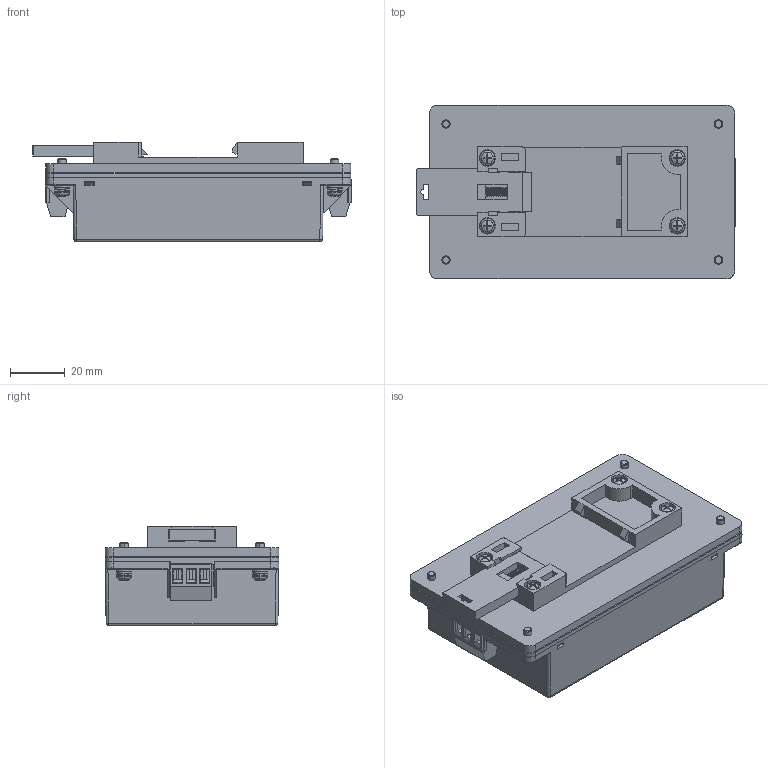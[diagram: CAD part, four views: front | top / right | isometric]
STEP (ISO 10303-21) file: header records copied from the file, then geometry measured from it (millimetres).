
FILE_DESCRIPTION (( 'STEP AP214' ), '1' );
FILE_NAME ('DTE40-D.STEP', '2017-01-10T15:31:44', ( '' ), ( '' ), 'SwSTEP 2.0', 'SolidWorks 2016', '' );
FILE_SCHEMA (( 'AUTOMOTIVE_DESIGN' ));
Length unit declared in the file: inch
Products named in the file (16): M3-8mm; SPRING WASHER; FLAT WASHER; DIN rail; DIN_3; DIN_2; DIN_1; DTE40 DIN Base; DTE40 base; DTE40 Case; Connector Input; Connector Output; DTE40-D; M3-12mm
Assembly tree (23 placements, depth 3):
  DTE40-D
    Connector Output
    Connector Input
    DTE40 Case
    DTE40 base
    DTE40 DIN Base
    DIN rail
      DIN_1
      DIN_2
      DIN_3
    M3-8mm  x4
      FLAT WASHER
      SPRING WASHER
      M3-8mm
    M3-12mm  x4
      M3-12mm
      FLAT WASHER
      SPRING WASHER
Bounding box: 116.81 x 63.8 x 36.6 mm (x, y, z)
Volume: 58691.1 mm3; surface area: 77768.6 mm2
Topology: 32 solids, 32 shells, 1512 faces, 3857 edges, 2485 vertices
Faces by surface type: plane 773, cylinder 395, bspline 204, cone 140
Entity records: 56144 total; most frequent: CARTESIAN_POINT 13180, ORIENTED_EDGE 5822, DIRECTION 5425, EDGE_CURVE 2911, LINE 1995, VECTOR 1995, VERTEX_POINT 1897, AXIS2_PLACEMENT_3D 1715
